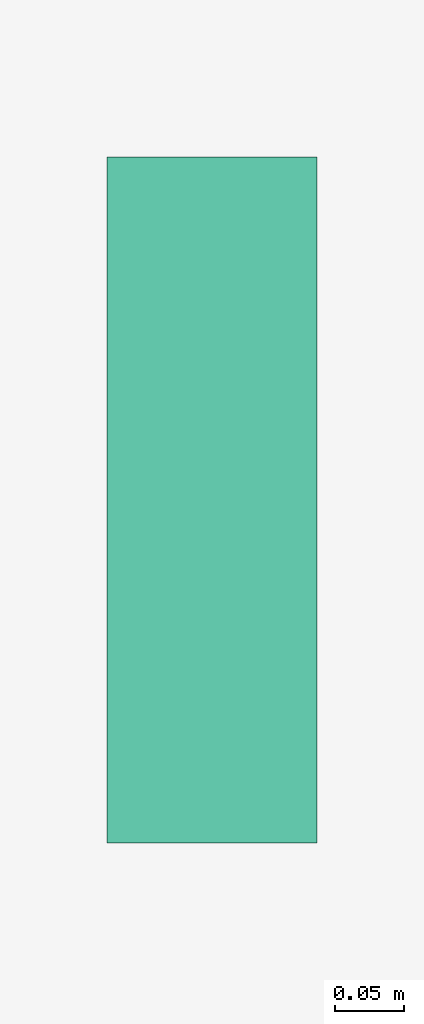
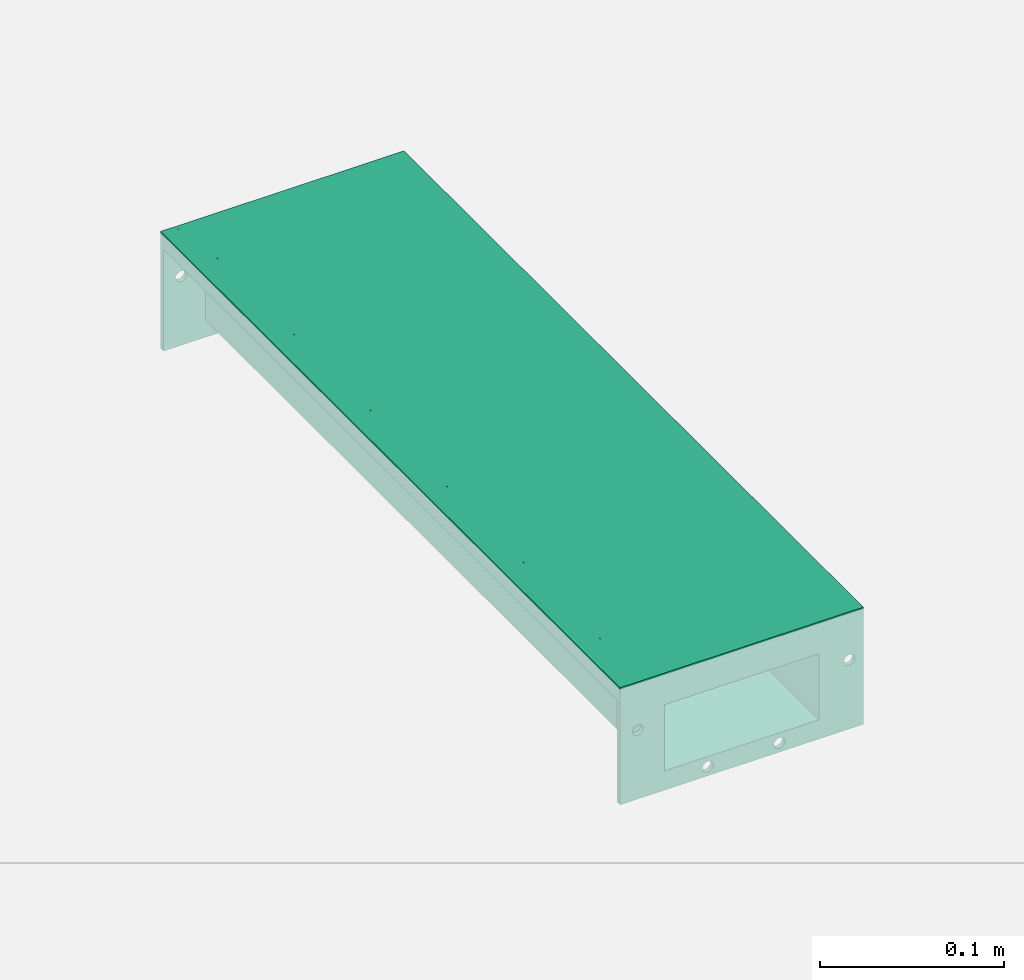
# One storey, part 2 of 2: 1 flow terminal.
"""IFC2X3 building model written with IfcOpenShell, lengths in millimetres."""

from ifc_helpers import new_model, entity, si_unit, converted_unit, direction, frame, frame_2d, origin, origin_2d_with_axis, place, context, subcontext, project, spatial, polyline, circle_curve, parameter, trimmed, segment, composite_curve, rectangle, outline, extrude, source, transform, mapped, material, material_list, element, save


model = new_model("IFC2X3")

# Units and contexts
model_context = context("Model", 3, precision=1e-06, world=origin(), true_north=direction((2.0, 6.12303176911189e-17, 1.0)))
context_of_model = context(None, 3, precision=1e-06, world=origin(), true_north=direction((2.0, 6.12303176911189e-17, 1.0)))
body_context = subcontext(model_context, "Body", "Model", "MODEL_VIEW")
ifc_project = project(units=[si_unit("LENGTHUNIT", "METRE", prefix="MILLI"), si_unit("AREAUNIT", "SQUARE_METRE", prefix="MILLI"), si_unit("VOLUMEUNIT", "CUBIC_METRE", prefix="MILLI"), converted_unit("PLANEANGLEUNIT", "DEGREE", entity("IfcRatioMeasure", 0.0174532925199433), si_unit("PLANEANGLEUNIT", "RADIAN"), dimensions=[0, 0, 0, 0, 0, 0, 0]), si_unit("TIMEUNIT", "SECOND")], contexts=[model_context, context_of_model])

# Site, building, storey
site_placement = place(None, origin())
site = spatial("IfcSite", under=ifc_project, at=site_placement, Name="Default", CompositionType="ELEMENT")
building_placement = place(site_placement, origin())
building = spatial("IfcBuilding", under=site, at=building_placement, CompositionType="ELEMENT")
storey_placement = place(building_placement, origin())
storey = spatial("IfcBuildingStorey", under=building, at=storey_placement, Name="Level 1", CompositionType="ELEMENT", Elevation=0.0)

# Flow terminal
ifc_material_1 = material(Name="Stainless Steel AISI 304")
ifc_material_2 = material(Name="Polystyrene, High Impact (F)")
ifc_material_list = material_list([ifc_material_1, ifc_material_2])
shared_shape = source(origin(), body_context, "Body", "SweptSolid", [
    extrude(rectangle(XDim=500.0, YDim=124.999917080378, at=origin_2d_with_axis()), frame((4.14598109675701e-05, 250.0, -21.0), z_axis=(0.0, 0.0, 1.0), x_axis=(0.0, 1.0, 0.0)), (0.0, 0.0, 1.0), 20.9999999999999),
    extrude(outline(polyline([(-76.5000276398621, -30.8000000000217), (-62.4999447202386, -30.8000000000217), (-62.4999447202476, -9.80000000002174), (-48.4999447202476, -9.80000000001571), (-48.4999447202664, 34.1999999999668), (48.4999723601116, 34.2000000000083), (48.4999723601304, -9.79999999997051), (62.4999723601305, -9.79999999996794), (62.4999723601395, -30.7999999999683), (76.4999723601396, -30.7999999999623), (76.4999723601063, 47.0), (-76.5000276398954, 47.0), (-76.5000276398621, -30.8000000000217)]), holes=[composite_curve([segment(trimmed(circle_curve(frame_2d((67.7349848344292, 1.09857254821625), x_axis=(1.0, 0.0)), 3.5), [parameter(0.0)], [parameter(180.0)], True, "PARAMETER"), False, "CONTINUOUS"), segment(trimmed(circle_curve(frame_2d((67.7349848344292, 1.09857254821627), x_axis=(1.0, 0.0)), 3.5), [parameter(180.0)], [parameter(360.0)], True, "PARAMETER"), False, "CONTINUOUS")], self_intersect=False), composite_curve([segment(trimmed(circle_curve(frame_2d((23.7349848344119, 40.9218749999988), x_axis=(1.0, 0.0)), 3.5), [parameter(0.0)], [parameter(180.0)], True, "PARAMETER"), False, "CONTINUOUS"), segment(trimmed(circle_curve(frame_2d((23.7349848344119, 40.9218749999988), x_axis=(1.0, 0.0)), 3.5), [parameter(180.0)], [parameter(360.0)], True, "PARAMETER"), False, "CONTINUOUS")], self_intersect=False), composite_curve([segment(trimmed(circle_curve(frame_2d((-21.2650151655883, 40.9218749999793), x_axis=(1.0, 0.0)), 3.5), [parameter(179.999999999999)], [parameter(360.0)], True, "PARAMETER"), False, "CONTINUOUS"), segment(trimmed(circle_curve(frame_2d((-21.2650151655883, 40.9218749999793), x_axis=(1.0, 0.0)), 3.5), [parameter(360.0)], [parameter(180.0)], True, "PARAMETER"), False, "CONTINUOUS")], self_intersect=False), composite_curve([segment(trimmed(circle_curve(frame_2d((-65.2650151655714, 1.09857254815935), x_axis=(1.0, 0.0)), 3.5), [parameter(179.999999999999)], [parameter(360.0)], True, "PARAMETER"), False, "CONTINUOUS"), segment(trimmed(circle_curve(frame_2d((-65.2650151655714, 1.09857254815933), x_axis=(1.0, 0.0)), 3.5), [parameter(0.0)], [parameter(180.0)], True, "PARAMETER"), False, "CONTINUOUS")], self_intersect=False)]), frame((2.7639875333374e-05, 497.0, -30.8000000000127), z_axis=(0.0, 1.0, 0.0), x_axis=(1.0, 0.0, 0.0)), (0.0, 0.0, 1.0), 2.99999999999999),
    extrude(outline(polyline([(-76.4999585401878, -30.80000137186), (-62.4999585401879, -30.80000137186), (-62.4999585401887, -9.80000137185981), (-48.4999585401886, -9.80000137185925), (-48.4999585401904, 34.1999986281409), (48.4999585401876, 34.1999986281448), (48.4999585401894, -9.80000137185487), (62.4999585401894, -9.80000137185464), (62.4999585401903, -30.800001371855), (76.4999585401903, -30.8000013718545), (76.4999585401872, 47.0000068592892), (-76.4999585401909, 47.0000068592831), (-76.4999585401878, -30.80000137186)]), holes=[composite_curve([segment(trimmed(circle_curve(frame_2d((67.7349710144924, 1.0985711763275), x_axis=(1.0, 0.0)), 3.5), [parameter(0.0)], [parameter(180.0)], True, "PARAMETER"), False, "CONTINUOUS"), segment(trimmed(circle_curve(frame_2d((67.7349710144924, 1.09857117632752), x_axis=(1.0, 0.0)), 3.5), [parameter(180.0)], [parameter(0.0)], True, "PARAMETER"), False, "CONTINUOUS")], self_intersect=False), composite_curve([segment(trimmed(circle_curve(frame_2d((23.7349710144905, 40.9218818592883), x_axis=(1.0, 0.0)), 3.5), [parameter(0.0)], [parameter(180.0)], True, "PARAMETER"), False, "CONTINUOUS"), segment(trimmed(circle_curve(frame_2d((23.7349710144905, 40.9218818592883), x_axis=(1.0, 0.0)), 3.5), [parameter(180.0)], [parameter(0.0)], True, "PARAMETER"), False, "CONTINUOUS")], self_intersect=False), composite_curve([segment(trimmed(circle_curve(frame_2d((-21.2650289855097, 40.9218818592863), x_axis=(1.0, 0.0)), 3.5), [parameter(180.0)], [parameter(360.0)], True, "PARAMETER"), False, "CONTINUOUS"), segment(trimmed(circle_curve(frame_2d((-21.2650289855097, 40.9218818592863), x_axis=(1.0, 0.0)), 3.5), [parameter(360.0)], [parameter(180.0)], True, "PARAMETER"), False, "CONTINUOUS")], self_intersect=False), composite_curve([segment(trimmed(circle_curve(frame_2d((-65.2650289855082, 1.09857117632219), x_axis=(1.0, 0.0)), 3.5), [parameter(180.0)], [parameter(0.0)], True, "PARAMETER"), False, "CONTINUOUS"), segment(trimmed(circle_curve(frame_2d((-65.2650289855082, 1.09857117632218), x_axis=(1.0, 0.0)), 3.5), [parameter(0.0)], [parameter(180.0)], True, "PARAMETER"), False, "CONTINUOUS")], self_intersect=False)]), frame((4.14598109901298e-05, 0.0, -30.8000013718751), z_axis=(0.0, 1.0, 0.0), x_axis=(1.0, 0.0, 0.0)), (0.0, 0.0, 1.0), 3.0),
    extrude(outline(polyline([(-20.1243423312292, -62.4999585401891), (-20.1243423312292, -76.499958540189), (-10.1243423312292, -76.499958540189), (-10.1243423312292, -74.999958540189), (-18.6243423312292, -74.999958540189), (-18.6243423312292, -63.9999585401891), (2.3756576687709, -63.9999585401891), (2.37565766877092, -49.999958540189), (46.3717116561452, -49.999958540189), (46.3717116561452, 49.999958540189), (2.37565766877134, 49.999958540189), (2.37565766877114, 63.999958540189), (-18.624342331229, 63.9999585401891), (-18.6243423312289, 74.9999585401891), (-10.1243423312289, 74.9999585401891), (-10.1243423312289, 76.4999585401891), (-20.1243423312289, 76.4999585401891), (-20.124342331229, 62.4999585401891), (0.875657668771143, 62.499958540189), (0.875657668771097, 48.499958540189), (44.8717116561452, 48.499958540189), (44.8717116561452, -48.499958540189), (0.875657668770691, -48.499958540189), (0.875657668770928, -62.4999585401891), (-20.1243423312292, -62.4999585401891)])), frame((4.14598110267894e-05, 3.0, -20.1282883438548), z_axis=(0.0, -1.0, 0.0), x_axis=(0.0, 0.0, -1.0)), (0.0, 0.0, -1.0), 494.0),
    extrude(rectangle(XDim=497.0, YDim=11.0, at=origin_2d_with_axis()), frame((69.5000000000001, 251.5, -10.0), z_axis=(0.0, 0.0, 1.0), x_axis=(0.0, 1.0, 0.0)), (0.0, 0.0, 1.0), 8.50000000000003),
    extrude(rectangle(XDim=497.0, YDim=10.9999999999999, at=origin_2d_with_axis()), frame((-69.499917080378, 251.5, -10.0), z_axis=(0.0, 0.0, 1.0), x_axis=(0.0, 1.0, 0.0)), (0.0, 0.0, 1.0), 8.50000000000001),
])
flow_terminal_placement = place(storey_placement, frame((-147.883287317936, -204.664192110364, 0.0)))
element("IfcFlowTerminal", 1, at=flow_terminal_placement, inside=storey, material=ifc_material_list, Name="ACO BD Modular 125 Level Invert Straight Channels:105120 - Straight Channel - 500mm LG - Invert Depth 65mm:105120 - Straight Channel - 500mm LG - Invert Depth 65mm", ObjectType="105120 - Straight Channel - 500mm LG - Invert Depth 65mm", context=body_context, shape_type="MappedRepresentation", body=[
    mapped(shared_shape, transform((0.0, 0.0, 0.0), scale=1.0)),
])

save(model, "model.ifc")
